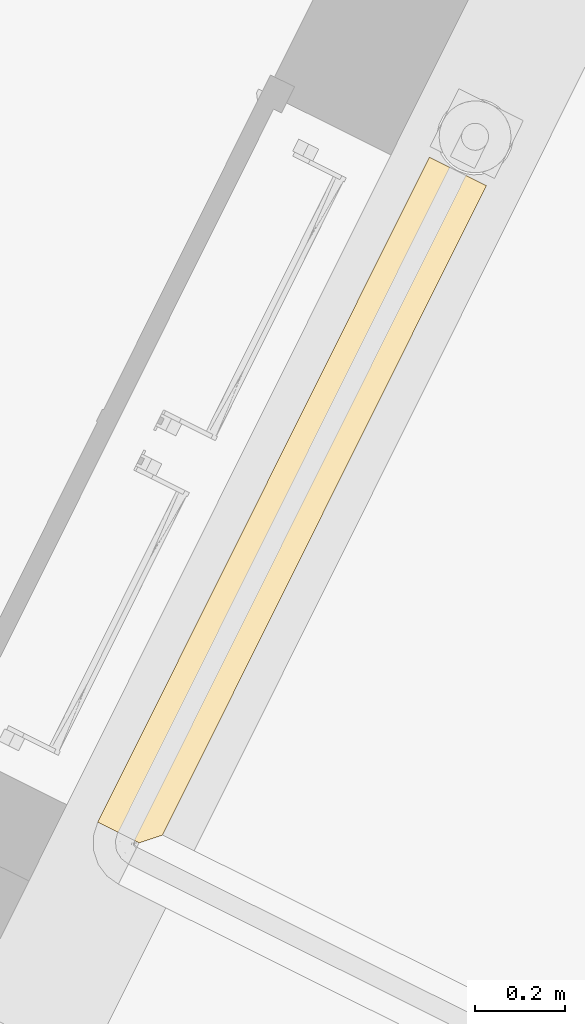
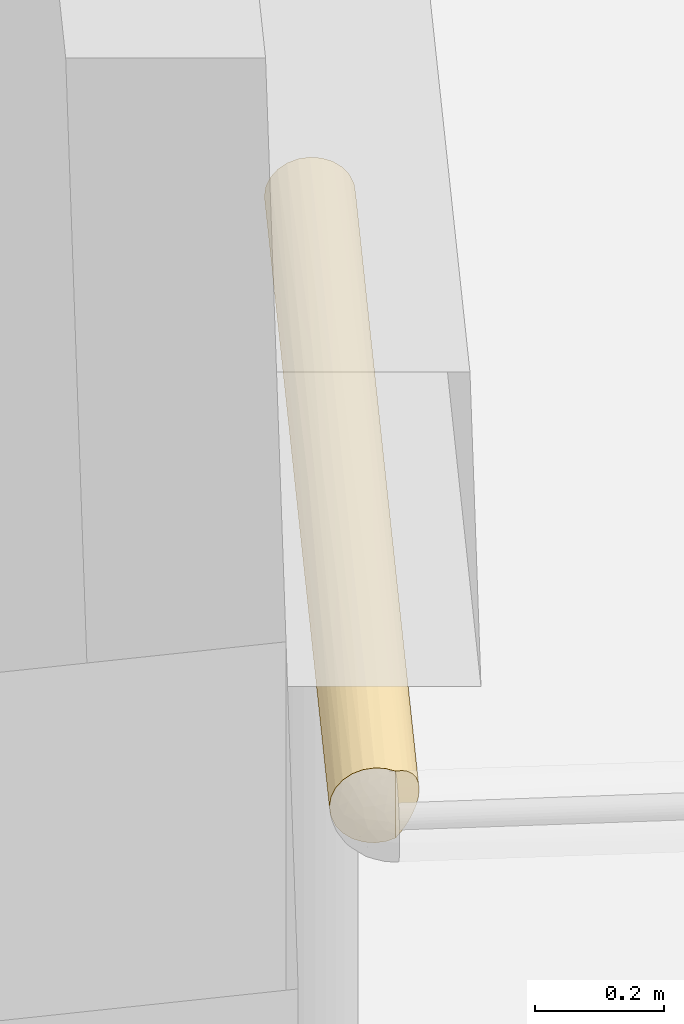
# One storey, part 35 of 91: 1 covering.
"""IFC2X3 building model written with IfcOpenShell, lengths in metres."""

from ifc_helpers import new_model, entity, si_unit, converted_unit, derived_unit, direction, frame, origin, place, context, subcontext, project, spatial, faceted_brep, element, save


model = new_model("IFC2X3")

# Units and contexts
model_context = context("Model", 3, precision=1e-05, world=origin(), true_north=direction((0.894925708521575, 0.446215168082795)))
context_of_model = context(None, 3, precision=1e-05, world=origin(), true_north=direction((0.894925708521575, 0.446215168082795)))
body_context = subcontext(model_context, "Body", "Model", "MODEL_VIEW")
ifc_project = project(units=[si_unit("LENGTHUNIT", "METRE"), si_unit("AREAUNIT", "SQUARE_METRE"), si_unit("VOLUMEUNIT", "CUBIC_METRE"), converted_unit("PLANEANGLEUNIT", "DEGREE", entity("IfcRatioMeasure", 0.0174532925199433), si_unit("PLANEANGLEUNIT", "RADIAN"), dimensions=[0, 0, 0, 0, 0, 0, 0]), si_unit("MASSUNIT", "GRAM", prefix="KILO"), si_unit("TIMEUNIT", "SECOND"), si_unit("FREQUENCYUNIT", "HERTZ"), si_unit("THERMODYNAMICTEMPERATUREUNIT", "DEGREE_CELSIUS"), derived_unit("THERMALTRANSMITTANCEUNIT", [(si_unit("MASSUNIT", "GRAM", prefix="KILO"), 1), (si_unit("THERMODYNAMICTEMPERATUREUNIT", "KELVIN"), -1), (si_unit("TIMEUNIT", "SECOND"), -3)]), derived_unit("VOLUMETRICFLOWRATEUNIT", [(si_unit("LENGTHUNIT", "METRE"), 3), (si_unit("TIMEUNIT", "SECOND"), -1)]), si_unit("ELECTRICCURRENTUNIT", "AMPERE"), si_unit("ELECTRICVOLTAGEUNIT", "VOLT"), si_unit("POWERUNIT", "WATT"), si_unit("FORCEUNIT", "NEWTON", prefix="KILO"), si_unit("ILLUMINANCEUNIT", "LUX"), si_unit("LUMINOUSFLUXUNIT", "LUMEN"), si_unit("LUMINOUSINTENSITYUNIT", "CANDELA"), si_unit("PRESSUREUNIT", "PASCAL")], contexts=[model_context, context_of_model])

# Site, building, storey
site_placement = place(None, frame((218.228324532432, 584.720189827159, 0.0), z_axis=(0.0, 0.0, 1.0), x_axis=(0.446215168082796, 0.894925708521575, 0.0)))
site = spatial("IfcSite", under=ifc_project, at=site_placement, Name="Default", CompositionType="ELEMENT")
building_placement = place(site_placement, origin())
building = spatial("IfcBuilding", under=site, at=building_placement, CompositionType="ELEMENT")
storey_placement = place(building_placement, origin())
storey = spatial("IfcBuildingStorey", under=building, at=storey_placement, Name="0 - Piano Terra", CompositionType="ELEMENT", Elevation=0.0)

# Covering
covering_placement = place(storey_placement, frame((-4.49146725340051, 0.576243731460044, 3.42732211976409)))
element("IfcCovering", 1, at=covering_placement, inside=storey, Name="Isolamento tubazione:Default", ObjectType="Isolamento tubazione:Default", PredefinedType="INSULATION", context=body_context, shape_type="Brep", body=[
    faceted_brep([(0.00159527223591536, 0.0726772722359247, 0.0015952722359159), (0.00159527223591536, 0.05622489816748, 0.00352548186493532), (0.00159527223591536, 0.0406771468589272, 0.00920568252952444), (0.00159527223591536, 0.0406773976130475, 0.136148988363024), (0.00159527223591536, 0.0562250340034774, 0.141829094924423), (0.00159527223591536, 0.0726772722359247, 0.143759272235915), (0.00159527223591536, 0.091074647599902, 0.141337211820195), (0.00159527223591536, 0.108218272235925, 0.134236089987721), (0.00159527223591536, 0.122939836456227, 0.122939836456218), (0.00159527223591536, 0.13423608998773, 0.108218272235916), (0.00159527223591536, 0.141337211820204, 0.0910746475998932), (0.00159527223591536, 0.143759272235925, 0.0726772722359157), (0.00159527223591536, 0.141337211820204, 0.0542798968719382), (0.00159527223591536, 0.13423608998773, 0.0371362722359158), (0.00159527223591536, 0.122939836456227, 0.0224147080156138), (0.00159527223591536, 0.108218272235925, 0.0111184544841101), (0.00159527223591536, 0.091074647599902, 0.00401733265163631), (1.65959527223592, 0.0015952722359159, 0.0726772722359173), (1.65959527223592, 0.00401733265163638, 0.0542798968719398), (1.65959527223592, 0.0111184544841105, 0.0371362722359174), (1.65959527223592, 0.0224147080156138, 0.0224147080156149), (1.65959527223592, 0.037136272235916, 0.0111184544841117), (1.65959527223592, 0.0542798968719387, 0.00401733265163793), (1.65959527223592, 0.072677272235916, 0.00159527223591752), (1.65959527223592, 0.0910746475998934, 0.00401733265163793), (1.65959527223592, 0.108218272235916, 0.0111184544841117), (1.65959527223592, 0.122939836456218, 0.0224147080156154), (1.65959527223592, 0.134236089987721, 0.0371362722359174), (1.65959527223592, 0.141337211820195, 0.0542798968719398), (1.65959527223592, 0.143759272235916, 0.0726772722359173), (1.65959527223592, 0.141337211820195, 0.0910746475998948), (1.65959527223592, 0.134236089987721, 0.108218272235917), (1.65959527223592, 0.122939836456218, 0.122939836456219), (1.65959527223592, 0.108218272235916, 0.134236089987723), (1.65959527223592, 0.0910746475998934, 0.141337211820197), (1.65959527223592, 0.0726772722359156, 0.143759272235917), (1.65959527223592, 0.0542798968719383, 0.141337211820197), (1.65959527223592, 0.0371362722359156, 0.134236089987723), (1.65959527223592, 0.0224147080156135, 0.122939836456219), (1.65959527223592, 0.0111184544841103, 0.108218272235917), (1.65959527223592, 0.00401733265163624, 0.0910746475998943), (1.27610702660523, 0.129070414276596, 0.0294052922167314), (0.385083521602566, 0.129070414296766, 0.0294052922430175), (0.509130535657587, 0.138348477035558, 0.0454753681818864), (0.830595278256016, 0.136819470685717, 0.0420434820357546), (1.25386534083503, 0.0998791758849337, 0.00700606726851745), (1.21801612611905, 0.142493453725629, 0.0593224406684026), (1.15206001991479, 0.138348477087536, 0.0454753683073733), (1.28026577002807, 0.0852654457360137, 0.00271879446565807), (1.2450951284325, 0.0726772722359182, 0.0015952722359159), (1.07082288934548, 0.0726772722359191, 0.0015952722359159), (0.536209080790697, 0.0726772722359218, 0.0015952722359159), (0.52913880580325, 0.0877176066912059, 0.00320469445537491), (0.909264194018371, 0.0867384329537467, 0.00299991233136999), (0.500228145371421, 0.142440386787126, 0.0590479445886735), (0.536209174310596, 0.143759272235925, 0.0726772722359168), (0.59036747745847, 0.143759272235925, 0.0726772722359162), (1.07082306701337, 0.143759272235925, 0.0726772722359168), (1.36520916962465, 0.143759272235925, 0.0726772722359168), (0.830595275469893, 0.129070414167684, 0.0294052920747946), (1.15206001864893, 0.115949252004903, 0.016284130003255), (0.471172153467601, 0.115949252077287, 0.0162841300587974), (0.830594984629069, 0.0726772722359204, 0.0015952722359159), (0.830595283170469, 0.141503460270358, 0.0549119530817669), (0.32971472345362, 0.0998791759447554, 0.0070060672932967), (0.811616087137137, 0.119111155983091, 0.0188577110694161), (0.728562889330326, 0.0998791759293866, 0.00700606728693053), (0.416094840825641, 0.0726772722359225, 0.0015952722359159), (1.23310451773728, 0.045475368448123, 0.00700606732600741), (0.825752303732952, 0.0359766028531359, 0.0118027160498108), (1.26551074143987, 0.0294052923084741, 0.0162841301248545), (0.679066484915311, 0.0594031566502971, 0.00284569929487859), (1.03784527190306, 0.0589526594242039, 0.00293284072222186), (0.841243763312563, 0.00925178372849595, 0.0405858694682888), (0.437088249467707, 0.0108049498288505, 0.0376848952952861), (0.917733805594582, 0.0234024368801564, 0.0214460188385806), (1.27132469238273, 0.00700606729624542, 0.0454753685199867), (1.21834676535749, 0.0162841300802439, 0.0294052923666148), (0.474508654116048, 0.0250123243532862, 0.019944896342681), (0.491411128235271, 0.0359970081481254, 0.0117904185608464), (0.456179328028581, 0.04828511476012, 0.00591146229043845), (0.0126664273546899, 0.0296060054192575, 0.0161306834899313), (0.849779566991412, 0.0481849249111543, 0.00594815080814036), (0.0222839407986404, 0.0199885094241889, 0.0249641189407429), (1.07082399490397, 0.00159527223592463, 0.0726772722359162), (1.31542633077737, 0.00259851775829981, 0.0607768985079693), (0.367920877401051, 0.0601096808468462, 0.00271509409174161), (0.0406772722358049, 0.00159527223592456, 0.0726772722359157), (0.0394777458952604, 0.00279477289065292, 0.0596739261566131), (0.629448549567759, 0.00159527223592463, 0.0726772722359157), (0.490732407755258, 0.00434148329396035, 0.0531101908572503), (0.0359197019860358, 0.00635279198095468, 0.0471094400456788), (0.030123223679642, 0.0121492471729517, 0.0354078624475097), (0.952230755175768, 0.00352565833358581, 0.0562241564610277), (1.36542959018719, 0.0601782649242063, 0.00270280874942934), (1.15863741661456, 0.00700606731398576, 0.0998791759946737), (0.644137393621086, 0.00956601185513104, 0.105382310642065), (0.843157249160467, 0.00517057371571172, 0.0949370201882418), (1.11319297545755, 0.00296268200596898, 0.0865526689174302), (0.888296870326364, 0.0577970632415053, 0.142184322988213), (0.590373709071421, 0.0726772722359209, 0.143759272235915), (0.46852377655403, 0.0522007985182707, 0.140746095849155), (0.850471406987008, 0.0163319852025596, 0.116011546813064), (0.50945656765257, 0.00434386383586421, 0.0922526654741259), (0.0359197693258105, 0.00635282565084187, 0.0982451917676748), (0.0394777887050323, 0.00279478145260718, 0.0856806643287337), (1.2940663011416, 0.0596566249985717, 0.142556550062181), (1.14830649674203, 0.0454753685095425, 0.138348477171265), (1.28680463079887, 0.0162841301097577, 0.11594925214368), (0.0222840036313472, 0.019988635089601, 0.120390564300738), (0.0301232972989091, 0.0121493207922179, 0.109946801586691), (0.422935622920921, 0.0160699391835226, 0.1156686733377), (0.318342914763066, 0.00907659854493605, 0.104420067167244), (1.25310417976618, 0.0294052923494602, 0.129070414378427), (0.0126664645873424, 0.0296061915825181, 0.129224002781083), (0.312000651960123, 0.0353515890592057, 0.133170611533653), (1.0708266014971, 0.0726772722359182, 0.143759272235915), (0.840727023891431, 0.0260632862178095, 0.126340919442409), (0.494526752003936, 0.0255773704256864, 0.12591494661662), (0.656000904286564, 0.0357698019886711, 0.133426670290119), (0.366450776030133, 0.085662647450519, 0.142563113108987), (0.509130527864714, 0.0998791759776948, 0.138348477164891), (0.830595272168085, 0.0878917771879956, 0.142111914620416), (0.830595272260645, 0.104095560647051, 0.136438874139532), (1.15206001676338, 0.0998791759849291, 0.138348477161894), (1.2761070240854, 0.115949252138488, 0.129070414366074), (0.385083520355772, 0.115949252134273, 0.129070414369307), (1.29473976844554, 0.0856626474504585, 0.142563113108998), (1.15206001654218, 0.129070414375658, 0.115949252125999), (0.471172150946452, 0.129070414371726, 0.115949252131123), (0.90926419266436, 0.142354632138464, 0.0867384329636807), (0.329714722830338, 0.138348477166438, 0.0998791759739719), (0.728562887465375, 0.138348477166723, 0.0998791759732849), (1.25386534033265, 0.138348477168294, 0.099879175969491), (0.830595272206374, 0.115949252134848, 0.129070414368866), (1.28026576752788, 0.142635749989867, 0.0852654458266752), (0.529138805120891, 0.142149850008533, 0.0877176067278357), (0.811616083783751, 0.126496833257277, 0.119111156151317)], [[[0, 1, 2, 3, 4, 5, 6, 7, 8, 9, 10, 11, 12, 13, 14, 15, 16]], [[17, 18, 19, 20, 21, 22, 23, 24, 25, 26, 27, 28, 29, 30, 31, 32, 33, 34, 35, 36, 37, 38, 39, 40]], [[27, 26, 41]], [[42, 43, 44]], [[45, 25, 24]], [[46, 28, 47]], [[48, 23, 49, 50]], [[51, 52, 53]], [[54, 11, 55, 56]], [[47, 28, 27]], [[46, 57, 58]], [[59, 41, 60]], [[43, 13, 12]], [[61, 15, 14]], [[53, 50, 62, 51]], [[43, 63, 44]], [[57, 46, 63]], [[16, 15, 64]], [[26, 25, 60]], [[60, 25, 45]], [[65, 66, 61]], [[61, 66, 64]], [[66, 60, 45]], [[16, 64, 52]], [[58, 29, 28]], [[56, 63, 54]], [[13, 42, 14]], [[63, 46, 47]], [[41, 47, 27]], [[28, 46, 58]], [[44, 63, 47]], [[42, 61, 14]], [[16, 52, 0]], [[60, 65, 59]], [[54, 63, 43]], [[57, 63, 56]], [[53, 48, 50]], [[60, 41, 26]], [[41, 59, 42, 44]], [[43, 42, 13]], [[42, 59, 65]], [[61, 64, 15]], [[52, 64, 66]], [[52, 66, 53]], [[52, 51, 67, 0]], [[66, 45, 53]], [[48, 53, 45]], [[45, 24, 48]], [[23, 48, 24]], [[43, 12, 54]], [[11, 54, 12]], [[41, 44, 47]], [[66, 65, 60]], [[42, 65, 61]], [[68, 22, 21]], [[69, 68, 70]], [[21, 20, 70]], [[71, 62, 72]], [[73, 74, 75]], [[76, 77, 19]], [[69, 78, 79]], [[80, 2, 1]], [[76, 19, 18]], [[72, 62, 50, 49]], [[79, 2, 80]], [[75, 69, 70]], [[79, 81, 2]], [[80, 71, 82]], [[83, 78, 74]], [[17, 84, 85]], [[67, 71, 86]], [[87, 88, 89]], [[89, 88, 90]], [[74, 91, 92]], [[21, 70, 68]], [[83, 81, 78]], [[86, 0, 67]], [[90, 91, 74]], [[19, 77, 20]], [[88, 91, 90]], [[89, 90, 93]], [[18, 85, 76]], [[73, 76, 93]], [[74, 73, 90]], [[68, 72, 94]], [[20, 77, 70]], [[71, 67, 51, 62]], [[70, 77, 75]], [[93, 85, 84]], [[22, 94, 23]], [[77, 76, 73]], [[94, 72, 49]], [[68, 69, 82]], [[89, 93, 84]], [[90, 73, 93]], [[82, 71, 72]], [[71, 80, 86]], [[68, 82, 72]], [[82, 69, 79]], [[76, 85, 93]], [[17, 85, 18]], [[73, 75, 77]], [[78, 69, 75]], [[80, 1, 86]], [[0, 86, 1]], [[83, 74, 92]], [[75, 74, 78]], [[23, 94, 49]], [[68, 94, 22]], [[79, 78, 81]], [[82, 79, 80]], [[39, 95, 40]], [[95, 96, 97]], [[40, 95, 98]], [[99, 100, 101]], [[96, 95, 102]], [[103, 104, 105]], [[36, 106, 107]], [[103, 105, 89]], [[39, 38, 108]], [[109, 110, 111]], [[103, 96, 112]], [[105, 87, 89]], [[37, 107, 113]], [[3, 114, 115]], [[108, 95, 39]], [[35, 116, 106]], [[99, 107, 106]], [[102, 117, 118]], [[119, 118, 117]], [[38, 37, 113]], [[5, 4, 101]], [[118, 109, 111]], [[96, 102, 111]], [[36, 107, 37]], [[115, 101, 3]], [[17, 40, 98]], [[110, 104, 112]], [[115, 118, 119]], [[98, 89, 84, 17]], [[101, 4, 3]], [[114, 109, 118]], [[115, 119, 101]], [[99, 119, 107]], [[5, 101, 100]], [[117, 107, 119]], [[113, 117, 108]], [[118, 115, 114]], [[102, 118, 111]], [[108, 117, 102]], [[107, 117, 113]], [[113, 108, 38]], [[95, 108, 102]], [[111, 110, 112]], [[96, 103, 97]], [[103, 112, 104]], [[111, 112, 96]], [[89, 97, 103]], [[98, 95, 97]], [[89, 98, 97]], [[35, 106, 36]], [[99, 106, 116]], [[100, 99, 116]], [[119, 99, 101]], [[6, 120, 121]], [[121, 120, 122]], [[123, 124, 125]], [[121, 123, 126]], [[127, 35, 34]], [[34, 33, 124]], [[32, 125, 33]], [[5, 100, 120]], [[35, 127, 116]], [[126, 8, 7]], [[7, 6, 121]], [[31, 128, 32]], [[126, 129, 8]], [[130, 57, 56, 55]], [[122, 100, 116]], [[124, 127, 34]], [[10, 9, 131]], [[132, 131, 129]], [[132, 128, 133]], [[129, 9, 8]], [[134, 125, 128]], [[135, 29, 58, 57]], [[10, 131, 136]], [[133, 128, 31]], [[33, 125, 124]], [[133, 31, 30]], [[137, 132, 129]], [[55, 136, 130]], [[10, 136, 11]], [[128, 137, 134]], [[130, 135, 57]], [[121, 126, 7]], [[126, 134, 137]], [[128, 125, 32]], [[125, 134, 126, 123]], [[127, 122, 116]], [[123, 122, 124]], [[129, 131, 9]], [[136, 131, 132]], [[136, 132, 130]], [[136, 55, 11]], [[132, 133, 130]], [[135, 130, 133]], [[133, 30, 135]], [[29, 135, 30]], [[5, 120, 6]], [[122, 120, 100]], [[122, 123, 121]], [[122, 127, 124]], [[132, 137, 128]], [[126, 137, 129]], [[3, 2, 81, 83, 92, 91, 88, 87, 105, 104, 110, 109, 114]]]),
])

save(model, "model.ifc")
